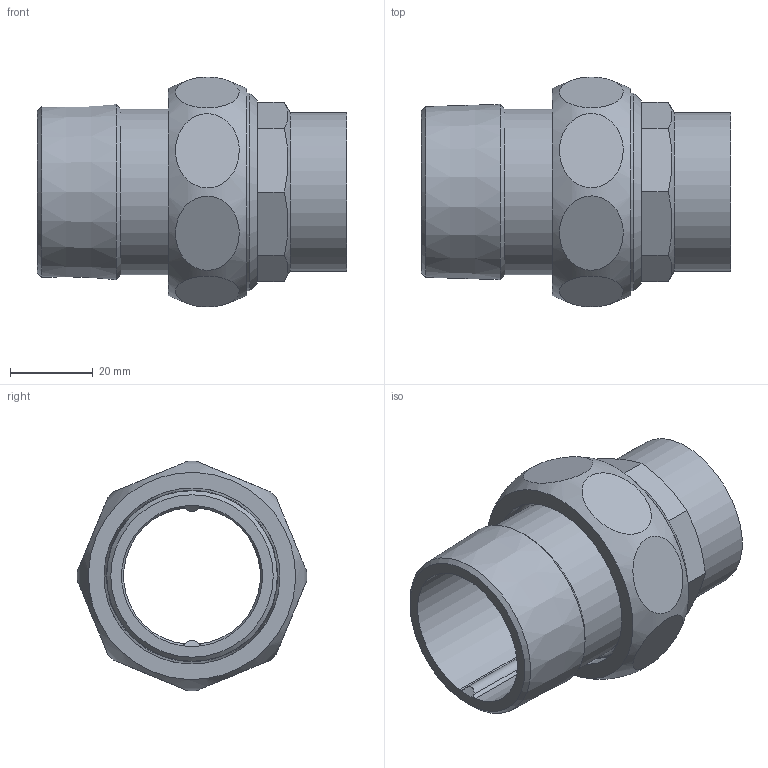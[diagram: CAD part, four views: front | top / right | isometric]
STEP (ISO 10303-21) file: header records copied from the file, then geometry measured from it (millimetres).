
FILE_DESCRIPTION((''),'2;1');
FILE_NAME('\\Lg50001\groups\SANHA Legnica\Engineering\Public\RYSUNKI\SANHA POLSKA\4341g\step\14341g_35-114(1).stp','2010-06-10T13:40:51',('pajchrowski'),(''),'Autodesk Inventor 2009','Autodesk Inventor 2009','');
FILE_SCHEMA(('AUTOMOTIVE_DESIGN { 1 0 10303 214 1 1 1 1 }'));
Length unit declared in the file: millimetre
Products named in the file (4): 14341g_35-114(1); 14382_114-112(1); 14374_112(0); 14380_35-112(1)
Assembly tree (3 placements, depth 2):
  14341g_35-114(1)
    14382_114-112(1)
    14374_112(0)
    14380_35-112(1)
Bounding box: 74.58 x 55.49 x 55.49 mm (x, y, z)
Volume: 45328.9 mm3; surface area: 27871.3 mm2
Topology: 3 solids, 3 shells, 58 faces, 115 edges, 74 vertices
Faces by surface type: plane 26, cylinder 17, cone 12, bspline 2, torus 1
Full cylindrical faces by diameter (mm): 33 x1, 35 x1, 38.4 x1, 40 x1, 42 x1, 42.5 x1, 44.5 x1, 44.845 x1, 47.803 x1
Entity records: 3089 total; most frequent: CARTESIAN_POINT 1899, DIRECTION 222, ORIENTED_EDGE 184, AXIS2_PLACEMENT_3D 99, EDGE_LOOP 96, EDGE_CURVE 92, VERTEX_POINT 72, FACE_OUTER_BOUND 58
